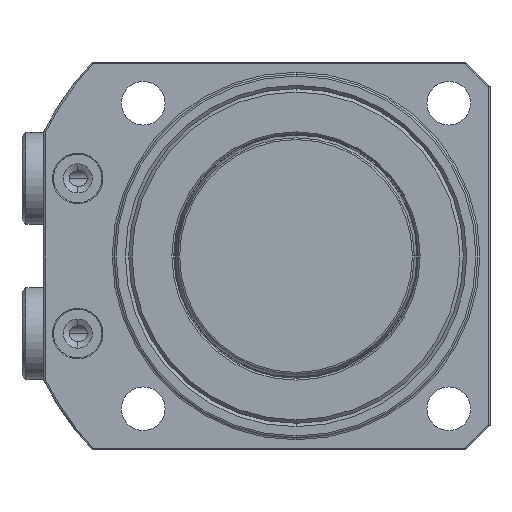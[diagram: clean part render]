
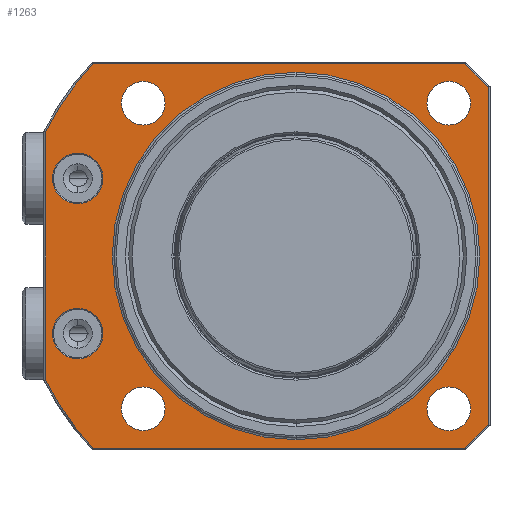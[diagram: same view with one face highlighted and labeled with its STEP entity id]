
A CAD part, front view. The second image highlights one B-rep face of the part: STEP entity #1263.
In plain terms, the highlighted planar face has unit normal (0, -1, 0) as drawn and (1, 0, 0) by its records, which use the part's own axes.
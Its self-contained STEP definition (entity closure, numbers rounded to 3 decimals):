
#992=PLANE('',#4678);
#1043=FACE_BOUND('',#1749,.T.);
#1044=FACE_BOUND('',#1750,.T.);
#1045=FACE_BOUND('',#1751,.T.);
#1046=FACE_BOUND('',#1752,.T.);
#1047=FACE_BOUND('',#1753,.T.);
#1048=FACE_BOUND('',#1754,.T.);
#1049=FACE_BOUND('',#1755,.T.);
#1050=FACE_BOUND('',#1756,.T.);
#1263=ADVANCED_FACE('',(#1043,#1044,#1045,#1046,#1047,#1048,#1049,#1050),
#992,.F.);
#1749=EDGE_LOOP('',(#2789,#2790));
#1750=EDGE_LOOP('',(#2791,#2792));
#1751=EDGE_LOOP('',(#2793,#2794,#2795,#2796,#2797,#2798,#2799,#2800));
#1752=EDGE_LOOP('',(#2801,#2802));
#1753=EDGE_LOOP('',(#2803,#2804));
#1754=EDGE_LOOP('',(#2805,#2806));
#1755=EDGE_LOOP('',(#2807,#2808));
#1756=EDGE_LOOP('',(#2809,#2810));
#2031=LINE('',#7027,#2232);
#2032=LINE('',#7030,#2233);
#2033=LINE('',#7032,#2234);
#2034=LINE('',#7034,#2235);
#2035=LINE('',#7036,#2236);
#2036=LINE('',#7040,#2237);
#2232=VECTOR('',#5504,1.);
#2233=VECTOR('',#5505,1.);
#2234=VECTOR('',#5506,1.);
#2235=VECTOR('',#5507,1.);
#2236=VECTOR('',#5508,1.);
#2237=VECTOR('',#5511,1.);
#2789=ORIENTED_EDGE('',*,*,#3854,.T.);
#2790=ORIENTED_EDGE('',*,*,#3993,.T.);
#2791=ORIENTED_EDGE('',*,*,#3850,.T.);
#2792=ORIENTED_EDGE('',*,*,#3994,.T.);
#2793=ORIENTED_EDGE('',*,*,#3995,.T.);
#2794=ORIENTED_EDGE('',*,*,#3996,.T.);
#2795=ORIENTED_EDGE('',*,*,#3997,.T.);
#2796=ORIENTED_EDGE('',*,*,#3998,.T.);
#2797=ORIENTED_EDGE('',*,*,#3999,.T.);
#2798=ORIENTED_EDGE('',*,*,#4000,.T.);
#2799=ORIENTED_EDGE('',*,*,#4001,.T.);
#2800=ORIENTED_EDGE('',*,*,#4002,.T.);
#2801=ORIENTED_EDGE('',*,*,#4003,.T.);
#2802=ORIENTED_EDGE('',*,*,#3860,.T.);
#2803=ORIENTED_EDGE('',*,*,#4004,.T.);
#2804=ORIENTED_EDGE('',*,*,#3948,.T.);
#2805=ORIENTED_EDGE('',*,*,#4005,.T.);
#2806=ORIENTED_EDGE('',*,*,#3956,.T.);
#2807=ORIENTED_EDGE('',*,*,#4006,.T.);
#2808=ORIENTED_EDGE('',*,*,#3964,.T.);
#2809=ORIENTED_EDGE('',*,*,#4007,.T.);
#2810=ORIENTED_EDGE('',*,*,#3972,.T.);
#3457=VERTEX_POINT('',#6494);
#3458=VERTEX_POINT('',#6496);
#3461=VERTEX_POINT('',#6503);
#3462=VERTEX_POINT('',#6505);
#3467=VERTEX_POINT('',#6518);
#3468=VERTEX_POINT('',#6519);
#3537=VERTEX_POINT('',#6872);
#3538=VERTEX_POINT('',#6873);
#3545=VERTEX_POINT('',#6899);
#3546=VERTEX_POINT('',#6900);
#3553=VERTEX_POINT('',#6926);
#3554=VERTEX_POINT('',#6927);
#3561=VERTEX_POINT('',#6953);
#3562=VERTEX_POINT('',#6954);
#3573=VERTEX_POINT('',#7028);
#3574=VERTEX_POINT('',#7029);
#3575=VERTEX_POINT('',#7031);
#3576=VERTEX_POINT('',#7033);
#3577=VERTEX_POINT('',#7035);
#3578=VERTEX_POINT('',#7037);
#3579=VERTEX_POINT('',#7039);
#3580=VERTEX_POINT('',#7041);
#3850=EDGE_CURVE('',#3458,#3457,#4276,.T.);
#3854=EDGE_CURVE('',#3462,#3461,#4278,.T.);
#3860=EDGE_CURVE('',#3467,#3468,#4283,.T.);
#3948=EDGE_CURVE('',#3537,#3538,#4320,.T.);
#3956=EDGE_CURVE('',#3545,#3546,#4323,.T.);
#3964=EDGE_CURVE('',#3553,#3554,#4326,.T.);
#3972=EDGE_CURVE('',#3561,#3562,#4329,.T.);
#3993=EDGE_CURVE('',#3461,#3462,#4337,.T.);
#3994=EDGE_CURVE('',#3457,#3458,#4338,.T.);
#3995=EDGE_CURVE('',#3573,#3574,#2031,.T.);
#3996=EDGE_CURVE('',#3574,#3575,#2032,.T.);
#3997=EDGE_CURVE('',#3575,#3576,#2033,.T.);
#3998=EDGE_CURVE('',#3576,#3577,#2034,.T.);
#3999=EDGE_CURVE('',#3577,#3578,#2035,.T.);
#4000=EDGE_CURVE('',#3578,#3579,#4339,.T.);
#4001=EDGE_CURVE('',#3579,#3580,#2036,.T.);
#4002=EDGE_CURVE('',#3580,#3573,#4340,.T.);
#4003=EDGE_CURVE('',#3468,#3467,#4341,.T.);
#4004=EDGE_CURVE('',#3538,#3537,#4342,.T.);
#4005=EDGE_CURVE('',#3546,#3545,#4343,.T.);
#4006=EDGE_CURVE('',#3554,#3553,#4344,.T.);
#4007=EDGE_CURVE('',#3562,#3561,#4345,.T.);
#4276=CIRCLE('',#4572,5.2);
#4278=CIRCLE('',#4575,5.2);
#4283=CIRCLE('',#4582,37.9);
#4320=CIRCLE('',#4641,4.5);
#4323=CIRCLE('',#4646,4.5);
#4326=CIRCLE('',#4651,4.5);
#4329=CIRCLE('',#4656,4.5);
#4337=CIRCLE('',#4669,5.2);
#4338=CIRCLE('',#4670,5.2);
#4339=CIRCLE('',#4671,57.6);
#4340=CIRCLE('',#4672,57.6);
#4341=CIRCLE('',#4673,37.9);
#4342=CIRCLE('',#4674,4.5);
#4343=CIRCLE('',#4675,4.5);
#4344=CIRCLE('',#4676,4.5);
#4345=CIRCLE('',#4677,4.5);
#4572=AXIS2_PLACEMENT_3D('',#6495,#5247,#5248);
#4575=AXIS2_PLACEMENT_3D('',#6504,#5255,#5256);
#4582=AXIS2_PLACEMENT_3D('',#6517,#5270,#5271);
#4641=AXIS2_PLACEMENT_3D('',#6871,#5426,#5427);
#4646=AXIS2_PLACEMENT_3D('',#6898,#5440,#5441);
#4651=AXIS2_PLACEMENT_3D('',#6925,#5454,#5455);
#4656=AXIS2_PLACEMENT_3D('',#6952,#5468,#5469);
#4669=AXIS2_PLACEMENT_3D('',#7025,#5500,#5501);
#4670=AXIS2_PLACEMENT_3D('',#7026,#5502,#5503);
#4671=AXIS2_PLACEMENT_3D('',#7038,#5509,#5510);
#4672=AXIS2_PLACEMENT_3D('',#7042,#5512,#5513);
#4673=AXIS2_PLACEMENT_3D('',#7043,#5514,#5515);
#4674=AXIS2_PLACEMENT_3D('',#7044,#5516,#5517);
#4675=AXIS2_PLACEMENT_3D('',#7045,#5518,#5519);
#4676=AXIS2_PLACEMENT_3D('',#7046,#5520,#5521);
#4677=AXIS2_PLACEMENT_3D('',#7047,#5522,#5523);
#4678=AXIS2_PLACEMENT_3D('',#7048,#5524,#5525);
#5247=DIRECTION('',(-1.,0.,0.));
#5248=DIRECTION('',(0.,0.,1.));
#5255=DIRECTION('',(-1.,0.,0.));
#5256=DIRECTION('',(0.,0.,1.));
#5270=DIRECTION('',(-1.,0.,0.));
#5271=DIRECTION('',(0.,0.,1.));
#5426=DIRECTION('',(-1.,0.,0.));
#5427=DIRECTION('',(0.,0.,1.));
#5440=DIRECTION('',(-1.,0.,0.));
#5441=DIRECTION('',(0.,0.,1.));
#5454=DIRECTION('',(-1.,0.,0.));
#5455=DIRECTION('',(0.,0.,1.));
#5468=DIRECTION('',(-1.,0.,0.));
#5469=DIRECTION('',(0.,0.,1.));
#5500=DIRECTION('',(-1.,0.,0.));
#5501=DIRECTION('',(0.,0.,1.));
#5502=DIRECTION('',(-1.,0.,0.));
#5503=DIRECTION('',(0.,0.,1.));
#5504=DIRECTION('',(0.,1.,0.));
#5505=DIRECTION('',(0.,0.707,0.707));
#5506=DIRECTION('',(0.,0.,1.));
#5507=DIRECTION('',(0.,-0.707,0.707));
#5508=DIRECTION('',(0.,-1.,0.));
#5509=DIRECTION('',(1.,0.,0.));
#5510=DIRECTION('',(0.,0.,1.));
#5511=DIRECTION('',(0.,0.,-1.));
#5512=DIRECTION('',(1.,0.,0.));
#5513=DIRECTION('',(0.,0.,1.));
#5514=DIRECTION('',(-1.,0.,0.));
#5515=DIRECTION('',(0.,0.,1.));
#5516=DIRECTION('',(-1.,0.,0.));
#5517=DIRECTION('',(0.,0.,1.));
#5518=DIRECTION('',(-1.,0.,0.));
#5519=DIRECTION('',(0.,0.,1.));
#5520=DIRECTION('',(-1.,0.,0.));
#5521=DIRECTION('',(0.,0.,1.));
#5522=DIRECTION('',(-1.,0.,0.));
#5523=DIRECTION('',(0.,0.,1.));
#5524=DIRECTION('',(-1.,0.,0.));
#5525=DIRECTION('',(0.,0.,-1.));
#6494=CARTESIAN_POINT('',(0.,-45.,21.2));
#6495=CARTESIAN_POINT('',(0.,-45.,16.));
#6496=CARTESIAN_POINT('',(0.,-45.,10.8));
#6503=CARTESIAN_POINT('',(0.,-45.,-10.8));
#6504=CARTESIAN_POINT('',(0.,-45.,-16.));
#6505=CARTESIAN_POINT('',(0.,-45.,-21.2));
#6517=CARTESIAN_POINT('',(0.,0.,0.));
#6518=CARTESIAN_POINT('',(0.,0.,-37.9));
#6519=CARTESIAN_POINT('',(0.,0.,37.9));
#6871=CARTESIAN_POINT('',(0.,31.5,31.5));
#6872=CARTESIAN_POINT('',(0.,31.5,27.));
#6873=CARTESIAN_POINT('',(0.,31.5,36.));
#6898=CARTESIAN_POINT('',(0.,31.5,-31.5));
#6899=CARTESIAN_POINT('',(0.,31.5,-36.));
#6900=CARTESIAN_POINT('',(0.,31.5,-27.));
#6925=CARTESIAN_POINT('',(0.,-31.5,-31.5));
#6926=CARTESIAN_POINT('',(0.,-31.5,-36.));
#6927=CARTESIAN_POINT('',(0.,-31.5,-27.));
#6952=CARTESIAN_POINT('',(0.,-31.5,31.5));
#6953=CARTESIAN_POINT('',(0.,-31.5,27.));
#6954=CARTESIAN_POINT('',(0.,-31.5,36.));
#7025=CARTESIAN_POINT('',(0.,-45.,-16.));
#7026=CARTESIAN_POINT('',(0.,-45.,16.));
#7027=CARTESIAN_POINT('',(0.,35.,-39.6));
#7028=CARTESIAN_POINT('',(0.,-41.828,-39.6));
#7029=CARTESIAN_POINT('',(0.,34.834,-39.6));
#7030=CARTESIAN_POINT('',(0.,39.717,-34.717));
#7031=CARTESIAN_POINT('',(0.,39.6,-34.834));
#7032=CARTESIAN_POINT('',(0.,39.6,35.));
#7033=CARTESIAN_POINT('',(0.,39.6,34.834));
#7034=CARTESIAN_POINT('',(0.,34.717,39.717));
#7035=CARTESIAN_POINT('',(0.,34.834,39.6));
#7036=CARTESIAN_POINT('',(0.,-42.,39.6));
#7037=CARTESIAN_POINT('',(0.,-41.828,39.6));
#7038=CARTESIAN_POINT('',(0.,0.,0.));
#7039=CARTESIAN_POINT('',(0.,-51.6,25.597));
#7040=CARTESIAN_POINT('',(0.,-51.6,-25.69));
#7041=CARTESIAN_POINT('',(0.,-51.6,-25.597));
#7042=CARTESIAN_POINT('',(0.,0.,0.));
#7043=CARTESIAN_POINT('',(0.,0.,0.));
#7044=CARTESIAN_POINT('',(0.,31.5,31.5));
#7045=CARTESIAN_POINT('',(0.,31.5,-31.5));
#7046=CARTESIAN_POINT('',(0.,-31.5,-31.5));
#7047=CARTESIAN_POINT('',(0.,-31.5,31.5));
#7048=CARTESIAN_POINT('',(0.,0.,0.));
